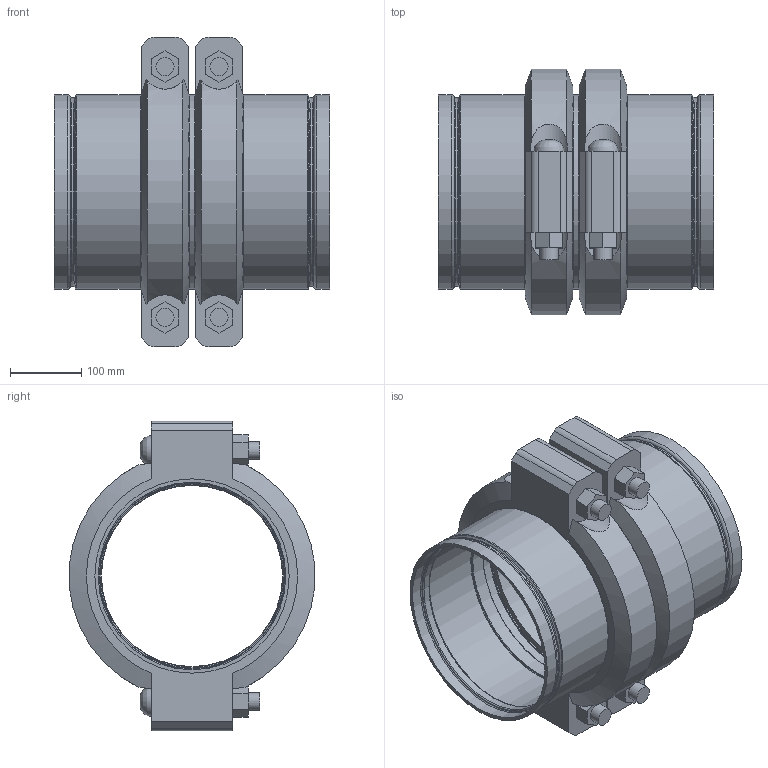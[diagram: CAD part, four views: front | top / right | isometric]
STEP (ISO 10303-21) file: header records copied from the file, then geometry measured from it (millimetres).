
FILE_DESCRIPTION(/* description */ ('VIC STRENGTHIN 100 EXPANSION JOINT 2 COUPLINGS EXPANDED STYLE E155 (ST1)','CAx-IF Rec.Pracs.---Representation and Presentation of Product Manufacturing Information (PMI)---4.0---2014-10-13'),/* implementation_level */ '2;1');
FILE_NAME(/* name */ 'C:\Users\Vjadhav\AppData\Roaming\Autodesk\ApplicationPlugins\Victaulic.Temp\A901\Victaulic_SS-StrengThin 100_Expansion Joint_Expanded_2 Couplings_Style E155 (ST1)_10 (250).stp',/* time_stamp */ '2021-07-23T19:27:19+06:00',/* author */ ('kkamble'),/* organization */ ('Victaulic'),/* preprocessor_version */ 'ST-DEVELOPER v17.2',/* originating_system */ 'Autodesk Inventor 2019',/* authorisation */ '');
FILE_SCHEMA (('AP242_MANAGED_MODEL_BASED_3D_ENGINEERING_MIM_LF { 1 0 10303 442 1 1 4 }'));
Length unit declared in the file: inch
Products named in the file (4): E155-10.0; E494G-10.0; Nipple-10.0; 077-10.0
Assembly tree (5 placements, depth 2):
  E155-10.0
    E494G-10.0  x2
    Nipple-10.0
    077-10.0  x2
Bounding box: 386.59 x 344.9 x 435.1 mm (x, y, z)
Volume: 7646299 mm3; surface area: 1252066.3 mm2
Topology: 5 solids, 9 shells, 204 faces, 550 edges, 394 vertices
Faces by surface type: plane 92, cylinder 64, torus 32, cone 12, bspline 4
Full cylindrical faces by diameter (mm): 25.4 x8, 27.432 x4, 254.508 x1, 255.626 x2, 258.724 x2, 263.5 x6, 264.16 x2, 265.176 x2, 268.275 x4, 273.05 x13
Entity records: 4025 total; most frequent: CARTESIAN_POINT 840, DIRECTION 675, ORIENTED_EDGE 580, EDGE_CURVE 290, AXIS2_PLACEMENT_3D 290, VERTEX_POINT 209, CIRCLE 175, EDGE_LOOP 135
